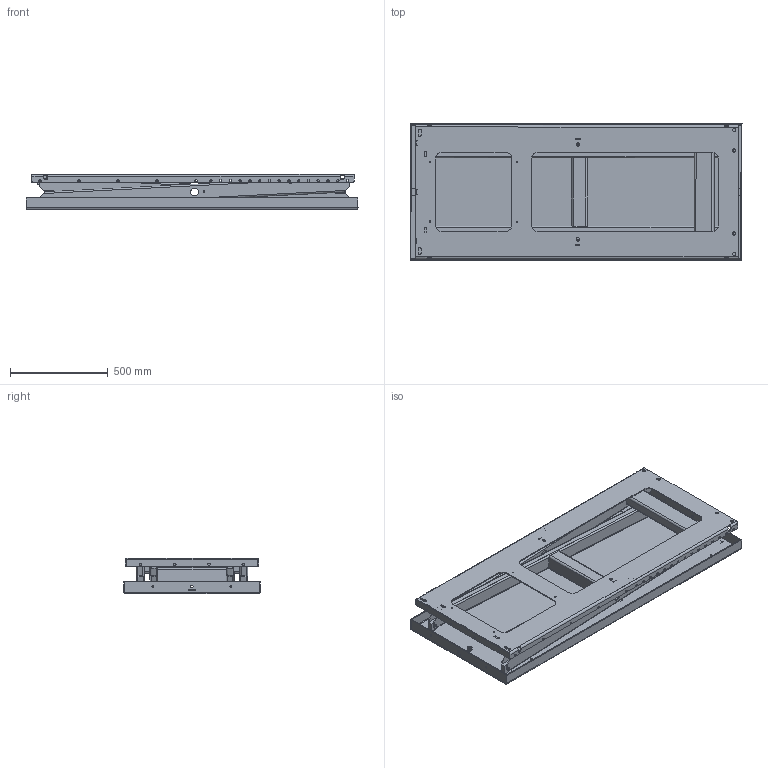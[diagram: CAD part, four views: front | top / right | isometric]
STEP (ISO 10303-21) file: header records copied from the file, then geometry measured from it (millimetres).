
FILE_DESCRIPTION(/* description */ ('TM 1000 (1700x700)'),/* implementation_level */ '2;1');
FILE_NAME(/* name */ '\\EDMOFILE01\Users$\JOHSO\Desktop\32970_Closed-Height.stp',/* time_stamp */ '2017-02-01T10:21:29+01:00',/* author */ ('ROBBE'),/* organization */ (''),/* preprocessor_version */ 'ST-DEVELOPER v16.5',/* originating_system */ 'Autodesk Inventor 2017',/* authorisation */ '');
FILE_SCHEMA (('AUTOMOTIVE_DESIGN { 1 0 10303 214 3 1 1 }'));
Length unit declared in the file: millimetre
Products named in the file (23): 32970.tmp; 609060; 609059; 44681; 609074; 513359; 513362-1; 513362-2; 513362-2_1; 45258; 83212; 44812; 44812_1; 85955; 42513; 70015; 612231; 32974C; 35331-2; 82154 - 490; 32973C; 35331-1; 82149 - 350
Assembly tree (32 placements, depth 4):
  32970.tmp
    609060
      609059
      45258  x2
      44681  x2
      609074
    513359
      513362-1
      513362-2
      513362-2_1
      45258  x2
      83212  x4
      44812
      44812_1
      85955
    42513  x2
    70015
    612231
      32974C
        35331-2  x2
        82154 - 490
      32973C
        35331-1  x2
        82149 - 350
Bounding box: 1700.35 x 700.85 x 180 mm (x, y, z)
Volume: 17620679.9 mm3; surface area: 7614746.4 mm2
Topology: 27 solids, 27 shells, 1192 faces, 3315 edges, 2182 vertices
Faces by surface type: plane 597, cylinder 532, cone 57, torus 6
Full cylindrical faces by diameter (mm): 6.8 x4, 7.4 x8, 8 x4, 10 x4, 10.2 x20, 11 x2, 11.63 x4, 12.5 x2, 13.835 x5, 16 x2, 18.8 x2, 19 x1, 20 x1, 20.1 x4, 25 x1, 40 x4, 60 x4
Entity records: 32421 total; most frequent: CARTESIAN_POINT 5841, DIRECTION 5588, ORIENTED_EDGE 5300, EDGE_CURVE 2650, AXIS2_PLACEMENT_3D 1965, VERTEX_POINT 1778, LINE 1658, VECTOR 1658
